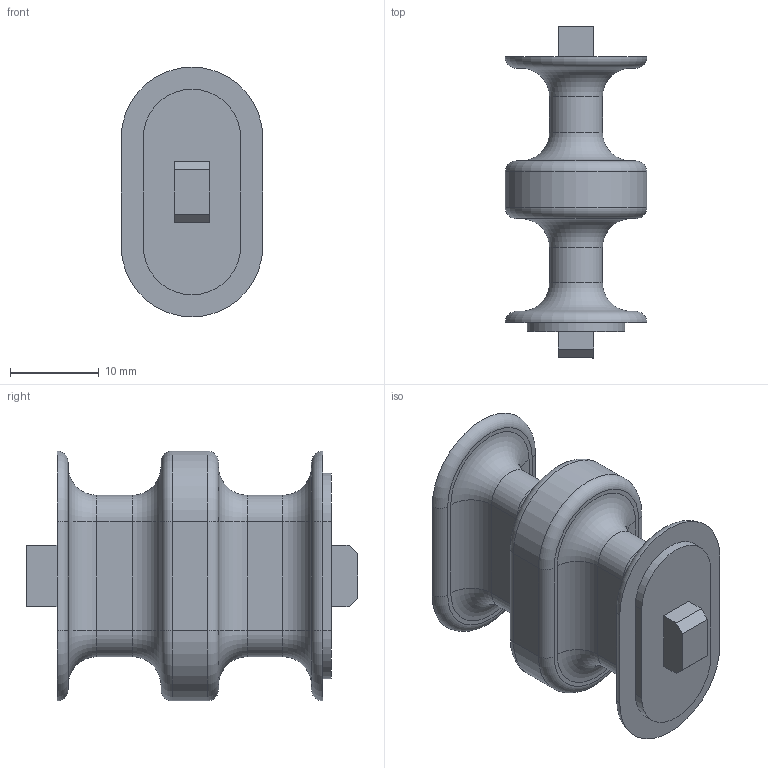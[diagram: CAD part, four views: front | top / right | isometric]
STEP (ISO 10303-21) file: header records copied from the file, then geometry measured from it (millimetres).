
FILE_DESCRIPTION(/* description */ (''),/* implementation_level */ '2;1');
FILE_NAME(/* name */ 'Core.stp',/* time_stamp */ '2025-08-17T17:05:12+02:00',/* author */ ('MehdiBelhadj'),/* organization */ (''),/* preprocessor_version */ 'ST-DEVELOPER v20.1',/* originating_system */ 'Autodesk Inventor 2026',/* authorisation */ '');
FILE_SCHEMA (('AUTOMOTIVE_DESIGN { 1 0 10303 214 3 1 1 }'));
Length unit declared in the file: millimetre
Products named in the file (1): Core_1
Bounding box: 16 x 37.5 x 28.23 mm (x, y, z)
Volume: 6449.3 mm3; surface area: 3365.3 mm2
Topology: 1 solids, 1 shells, 67 faces, 150 edges, 92 vertices
Faces by surface type: plane 27, cylinder 24, torus 16
Entity records: 1979 total; most frequent: DIRECTION 354, CARTESIAN_POINT 310, ORIENTED_EDGE 300, EDGE_CURVE 150, AXIS2_PLACEMENT_3D 136, VERTEX_POINT 92, LINE 82, VECTOR 82
